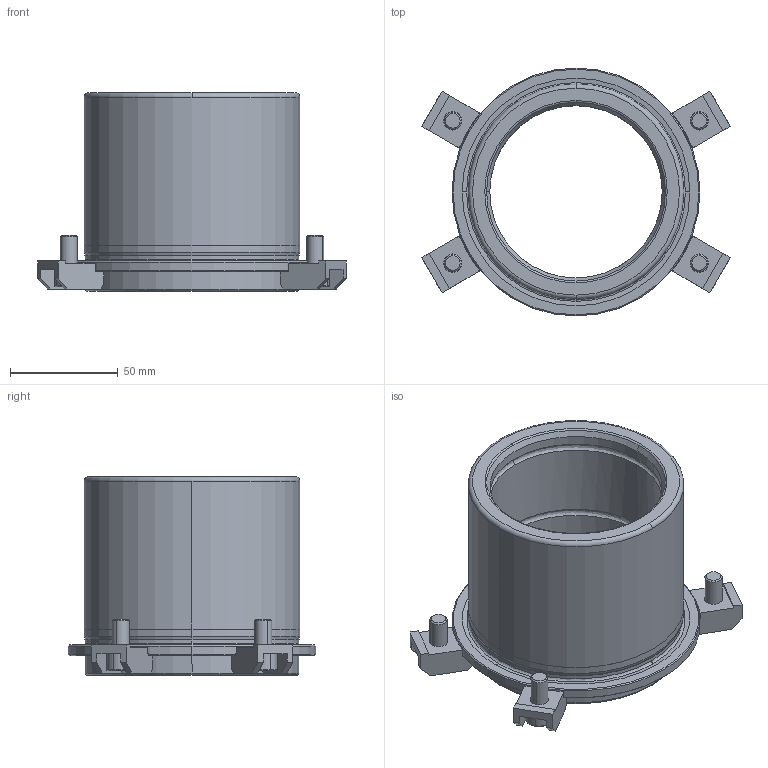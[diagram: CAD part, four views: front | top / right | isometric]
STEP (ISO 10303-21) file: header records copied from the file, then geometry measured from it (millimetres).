
FILE_DESCRIPTION((''),'2;1');
FILE_NAME('B12_080_014.stp','2008-11-04T13:52:49',(''),(''),'Mechanical Desktop 2009','Mechanical Desktop 2009',', , ');
FILE_SCHEMA(('CONFIG_CONTROL_DESIGN'));
Length unit declared in the file: millimetre
Products named in the file (2): Product; blmdl1
Assembly tree (1 placements, depth 2):
  Product
    blmdl1
Bounding box: 143.11 x 115 x 92 mm (x, y, z)
Volume: 282688.1 mm3; surface area: 74457.3 mm2
Topology: 9 solids, 9 shells, 236 faces, 620 edges, 411 vertices
Faces by surface type: plane 137, cylinder 48, cone 18, bspline 17, torus 16
Entity records: 8442 total; most frequent: CARTESIAN_POINT 2336, DIRECTION 1289, ORIENTED_EDGE 1240, EDGE_CURVE 620, AXIS2_PLACEMENT_3D 457, VERTEX_POINT 411, VECTOR 375, LINE 375
